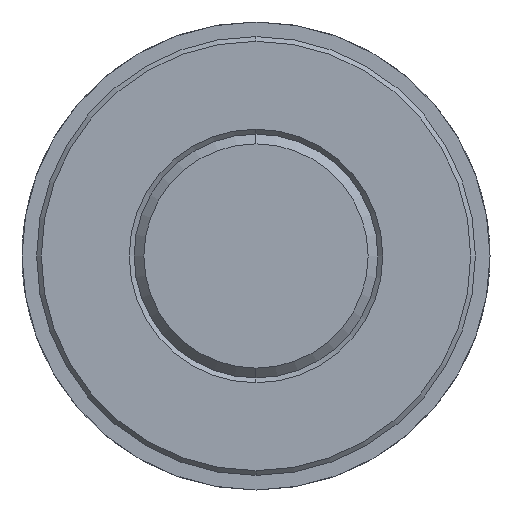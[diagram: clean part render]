
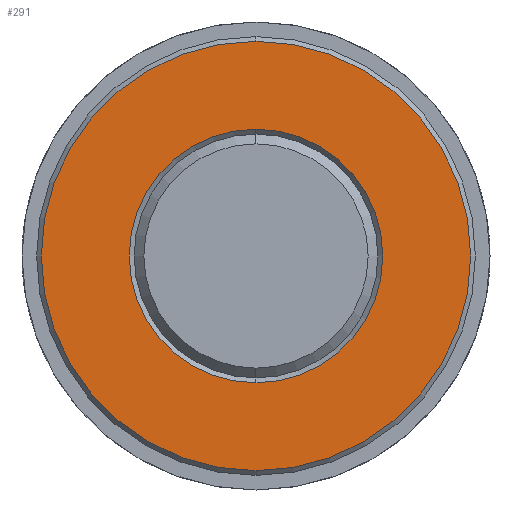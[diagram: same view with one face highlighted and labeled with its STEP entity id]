
A CAD part, left-side view. The second image highlights one B-rep face of the part: STEP entity #291.
In plain terms, the highlighted planar face has unit normal (-1, 0, 0).
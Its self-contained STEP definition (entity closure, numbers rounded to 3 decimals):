
#267=EDGE_CURVE('',#343,#431,#668,.T.);
#291=ADVANCED_FACE('',(#697,#698),#699,.T.);
#343=VERTEX_POINT('',#758);
#415=EDGE_CURVE('',#431,#343,#836,.T.);
#419=EDGE_CURVE('',#511,#571,#841,.T.);
#431=VERTEX_POINT('',#853);
#511=VERTEX_POINT('',#941);
#531=EDGE_CURVE('',#571,#511,#964,.T.);
#571=VERTEX_POINT('',#1009);
#668=CIRCLE('',#1148,13.0);
#697=FACE_BOUND('',#1202,.T.);
#698=FACE_OUTER_BOUND('',#1203,.T.);
#699=PLANE('',#1204);
#758=CARTESIAN_POINT('',(25.0,0.0,13.0));
#836=CIRCLE('',#1418,13.0);
#841=CIRCLE('',#1424,22.02);
#853=CARTESIAN_POINT('',(25.0,0.,-13.0));
#941=CARTESIAN_POINT('',(25.0,0.,-22.02));
#964=CIRCLE('',#1601,22.02);
#1009=CARTESIAN_POINT('',(25.0,0.0,22.02));
#1148=AXIS2_PLACEMENT_3D('',#1766,#1767,#1768);
#1202=EDGE_LOOP('',(#1816,#1817));
#1203=EDGE_LOOP('',(#1818,#1819));
#1204=AXIS2_PLACEMENT_3D('',#1820,#1821,#1822);
#1418=AXIS2_PLACEMENT_3D('',#1978,#1979,#1980);
#1424=AXIS2_PLACEMENT_3D('',#1990,#1991,#1992);
#1601=AXIS2_PLACEMENT_3D('',#2114,#2115,#2116);
#1766=CARTESIAN_POINT('',(25.0,0.0,0.0));
#1767=DIRECTION('',(1.0,0.0,0.));
#1768=DIRECTION('',(0.,0.0,1.0));
#1816=ORIENTED_EDGE('',*,*,#267,.T.);
#1817=ORIENTED_EDGE('',*,*,#415,.T.);
#1818=ORIENTED_EDGE('',*,*,#531,.F.);
#1819=ORIENTED_EDGE('',*,*,#419,.F.);
#1820=CARTESIAN_POINT('',(25.0,0.0,11.01));
#1821=DIRECTION('',(-1.0,-0.0,0.));
#1822=DIRECTION('',(0.,0.0,-1.0));
#1978=CARTESIAN_POINT('',(25.0,0.0,0.0));
#1979=DIRECTION('',(1.0,0.0,0.));
#1980=DIRECTION('',(0.,0.0,1.0));
#1990=CARTESIAN_POINT('',(25.0,0.0,0.0));
#1991=DIRECTION('',(1.0,0.0,-0.0));
#1992=DIRECTION('',(0.0,0.0,1.0));
#2114=CARTESIAN_POINT('',(25.0,0.0,0.0));
#2115=DIRECTION('',(1.0,0.0,-0.0));
#2116=DIRECTION('',(0.0,0.0,1.0));
